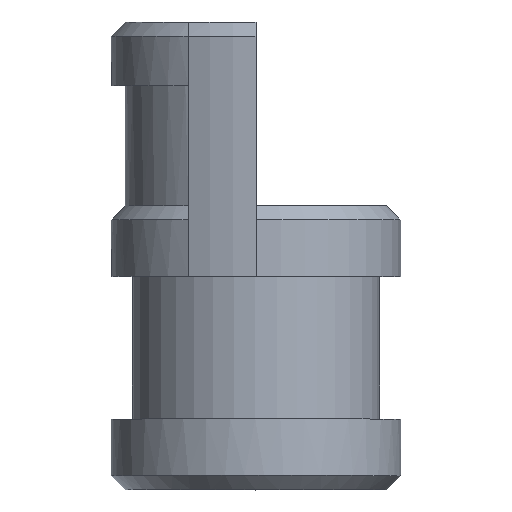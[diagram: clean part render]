
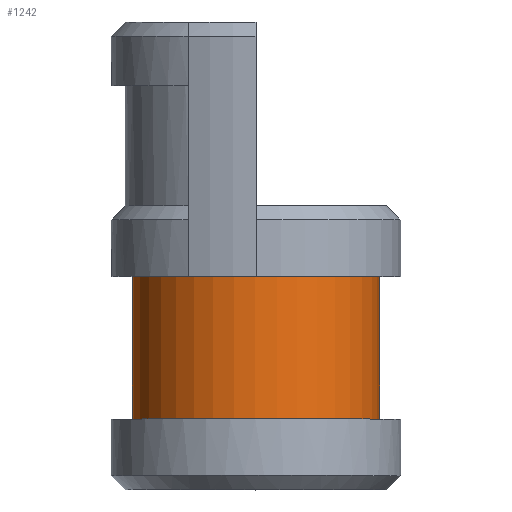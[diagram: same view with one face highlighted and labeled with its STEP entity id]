
A CAD part, top view. The second image highlights one B-rep face of the part: STEP entity #1242.
In plain terms, the highlighted cylindrical face has radius 8.75 mm (diameter 17.5 mm), a partial arc.
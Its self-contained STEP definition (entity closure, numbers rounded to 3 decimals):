
#53 = DIRECTION ( 'NONE',  ( 0., 1., 0. ) ) ;
#60 = LINE ( 'NONE', #1635, #1515 ) ;
#79 = CARTESIAN_POINT ( 'NONE',  ( 8.749, 0., 0.1 ) ) ;
#199 = EDGE_LOOP ( 'NONE', ( #966, #250, #285, #370 ) ) ;
#202 = AXIS2_PLACEMENT_3D ( 'NONE', #587, #53, #1127 ) ;
#223 = DIRECTION ( 'NONE',  ( 0., 1., 0. ) ) ;
#236 = DIRECTION ( 'NONE',  ( 0., 1., 0. ) ) ;
#248 = DIRECTION ( 'NONE',  ( 0., -1., 0. ) ) ;
#250 = ORIENTED_EDGE ( 'NONE', *, *, #521, .T. ) ;
#265 = CARTESIAN_POINT ( 'NONE',  ( 8.749, 5., 0.1 ) ) ;
#285 = ORIENTED_EDGE ( 'NONE', *, *, #381, .T. ) ;
#362 = DIRECTION ( 'NONE',  ( 1., 0., 0. ) ) ;
#370 = ORIENTED_EDGE ( 'NONE', *, *, #1615, .F. ) ;
#381 = EDGE_CURVE ( 'NONE', #910, #1024, #997, .T. ) ;
#449 = VECTOR ( 'NONE', #223, 1000. ) ;
#502 = CARTESIAN_POINT ( 'NONE',  ( 0., 5., 0. ) ) ;
#521 = EDGE_CURVE ( 'NONE', #1374, #910, #822, .T. ) ;
#529 = DIRECTION ( 'NONE',  ( 1., 0., 0. ) ) ;
#587 = CARTESIAN_POINT ( 'NONE',  ( 0., 15.1, 0. ) ) ;
#617 = FACE_OUTER_BOUND ( 'NONE', #199, .T. ) ;
#618 = CARTESIAN_POINT ( 'NONE',  ( 8.749, 15.1, -0.1 ) ) ;
#705 = VERTEX_POINT ( 'NONE', #618 ) ;
#822 = CIRCLE ( 'NONE', #1200, 8.75 ) ;
#826 = DIRECTION ( 'NONE',  ( 0., -1., 0. ) ) ;
#910 = VERTEX_POINT ( 'NONE', #265 ) ;
#966 = ORIENTED_EDGE ( 'NONE', *, *, #1014, .T. ) ;
#997 = LINE ( 'NONE', #79, #449 ) ;
#1014 = EDGE_CURVE ( 'NONE', #705, #1374, #60, .T. ) ;
#1024 = VERTEX_POINT ( 'NONE', #1643 ) ;
#1127 = DIRECTION ( 'NONE',  ( 1., 0., 0. ) ) ;
#1200 = AXIS2_PLACEMENT_3D ( 'NONE', #502, #236, #362 ) ;
#1242 = ADVANCED_FACE ( 'NONE', ( #617 ), #1487, .T. ) ;
#1320 = CARTESIAN_POINT ( 'NONE',  ( 0., 21.105, 0. ) ) ;
#1374 = VERTEX_POINT ( 'NONE', #1737 ) ;
#1378 = AXIS2_PLACEMENT_3D ( 'NONE', #1320, #248, #529 ) ;
#1487 = CYLINDRICAL_SURFACE ( 'NONE', #1378, 8.75 ) ;
#1515 = VECTOR ( 'NONE', #826, 1000. ) ;
#1615 = EDGE_CURVE ( 'NONE', #705, #1024, #1657, .T. ) ;
#1635 = CARTESIAN_POINT ( 'NONE',  ( 8.749, 0., -0.1 ) ) ;
#1643 = CARTESIAN_POINT ( 'NONE',  ( 8.749, 15.1, 0.1 ) ) ;
#1657 = CIRCLE ( 'NONE', #202, 8.75 ) ;
#1737 = CARTESIAN_POINT ( 'NONE',  ( 8.749, 5., -0.1 ) ) ;
